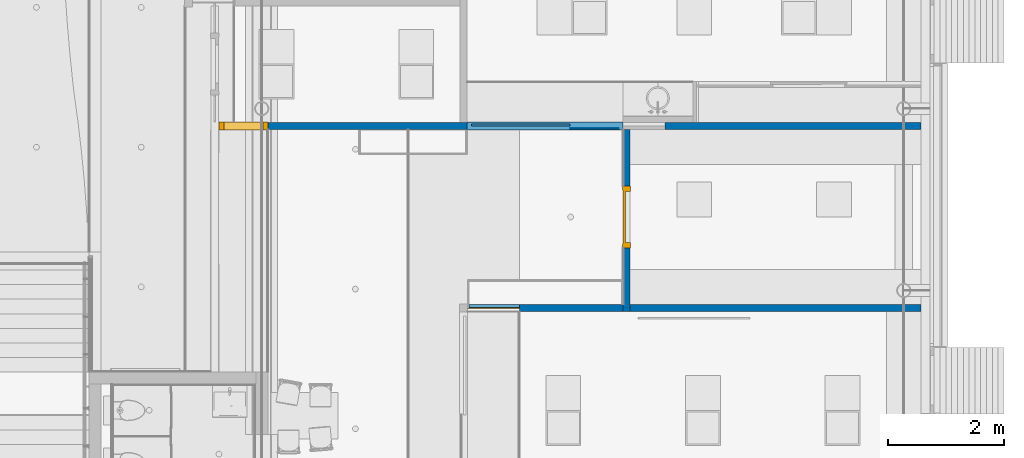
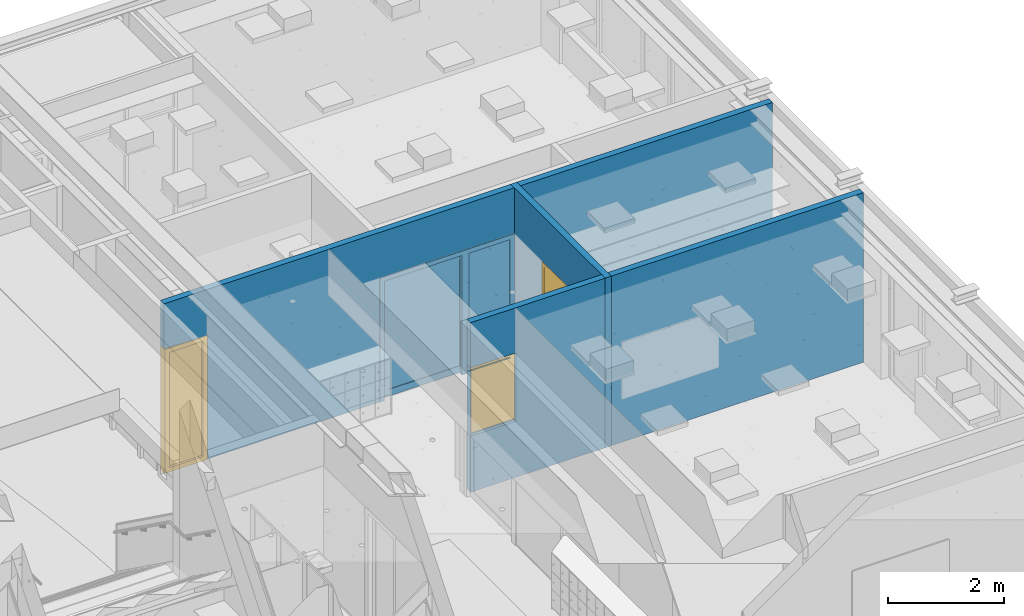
# One storey, part 66 of 347: 4 building element parts, 3 walls, 2 windows, 1 door, 4 openings, 1 element without a shape of its own.
"""IFC2X3 building model written with IfcOpenShell, lengths in millimetres."""

from ifc_helpers import new_model, entity, si_unit, converted_unit, derived_unit, money_unit, direction, frame, origin_with_axes, place, context, subcontext, project, spatial, open_shell, faceted_brep, surface_model, source, transform, mapped, material, type_object, type_shapes, element, fill, aggregate, save


model = new_model("IFC2X3")

# Units and contexts
model_context = context("Model", 3, precision=0.01, world=origin_with_axes(), true_north=direction((0.0, 1.0)))
plan_context = context("Plan", 3, precision=0.01, world=origin_with_axes(), true_north=direction((0.0, 1.0)))
body_context = subcontext(model_context, "Body", "Model", "MODEL_VIEW")
ifc_project = project(units=[si_unit("LENGTHUNIT", "METRE", prefix="MILLI"), si_unit("AREAUNIT", "SQUARE_METRE"), si_unit("VOLUMEUNIT", "CUBIC_METRE"), converted_unit("PLANEANGLEUNIT", "DEGREE", entity("IfcPlaneAngleMeasure", 0.0174532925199), si_unit("PLANEANGLEUNIT", "RADIAN"), dimensions=[0, 0, 0, 0, 0, 0, 0]), money_unit("EUR"), converted_unit("TIMEUNIT", "Year", entity("IfcTimeMeasure", 31556926.0), si_unit("TIMEUNIT", "SECOND"), dimensions=[0, 0, 1, 0, 0, 0, 0]), si_unit("MASSUNIT", "GRAM", prefix="KILO"), si_unit("THERMODYNAMICTEMPERATUREUNIT", "DEGREE_CELSIUS"), si_unit("LUMINOUSINTENSITYUNIT", "LUMEN"), si_unit("ENERGYUNIT", "JOULE", prefix="MEGA"), derived_unit("THERMALCONDUCTANCEUNIT", [(si_unit("POWERUNIT", "WATT"), 1), (si_unit("LENGTHUNIT", "METRE"), -1), (si_unit("THERMODYNAMICTEMPERATUREUNIT", "KELVIN"), -1)]), derived_unit("SPECIFICHEATCAPACITYUNIT", [(si_unit("ENERGYUNIT", "JOULE"), 1), (si_unit("MASSUNIT", "GRAM", prefix="KILO"), -1), (si_unit("THERMODYNAMICTEMPERATUREUNIT", "KELVIN"), -1)]), derived_unit("MASSDENSITYUNIT", [(si_unit("MASSUNIT", "GRAM", prefix="KILO"), 1), (si_unit("VOLUMEUNIT", "CUBIC_METRE"), -1)])], contexts=[model_context, plan_context])

# Site, building, storey
site_placement = place(None, origin_with_axes())
site = spatial("IfcSite", under=ifc_project, at=site_placement, Name="Site", CompositionType="ELEMENT")
building_placement = place(site_placement, origin_with_axes())
building = spatial("IfcBuilding", under=site, at=building_placement, Name="Naam gebouw", CompositionType="ELEMENT")
storey_placement = place(building_placement, origin_with_axes())
storey = spatial("IfcBuildingStorey", under=building, at=storey_placement, Name="begane grond", CompositionType="ELEMENT", Elevation=0.0)

# Wall, opening, window
ifc_material_1 = material(Name="ALG - LICHTE SCHEIDINGSWAND")
wall_type = type_object("IfcWallType", Name="ALG LSW 125 125", PredefinedType="NOTDEFINED")
wall_1_placement = place(storey_placement, frame((55875.0, 35900.0, 0.0), z_axis=(0.0, 0.0, 1.0), x_axis=(-1.0, 0.0, 0.0)))
wall_1 = element("IfcWall", 1, at=wall_1_placement, inside=storey, type_object=wall_type, material=ifc_material_1, Name="22_GF 125 ECO DGS/2.75.2A", context=body_context, shape_type="Brep", body=[
    faceted_brep([(6900.0, -62.5, 1200.0), (6900.0, -10.0, 1200.0), (6900.0, 10.0, 1200.0), (6900.0, 62.5000194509, 1200.0), (6900.0, 62.5, 2600.0), (6900.0, -62.5, 2600.0), (6900.00002007, -62.5, 1178.0), (6900.00002007, -10.0, 1178.0), (7793.0, -10.0, 1200.0), (7793.0, 10.0, 1200.0), (6900.0, 62.5, 0.0), (6900.00001931, 10.0, 1175.0), (6900.0, 61.5, 1175.0), (6900.0, 61.5, 0.0), (6900.0, 62.5, 2612.0), (5125.0, 62.5, 0.0), (5125.0, 62.5, 3560.00000041), (7800.0, 62.5, 3560.00000003), (7800.0, 62.5, 2612.0), (6900.0, -62.5, 2612.0), (5125.0, -62.5, 0.0), (7771.0, -62.5, 0.0), (7771.0, -62.5, 1178.0), (7800.0, -62.5, 2612.0), (7800.0, -62.5, 3560.00000003), (5125.0, -62.5, 3560.00000041), (7771.0, -10.0, 1178.0), (7793.0, -10.0, 1178.0), (7793.0, -62.5, 2600.0), (7793.0, 62.5, 2600.0), (7793.0, 62.5000194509, 1200.0), (7793.0, -62.5, 1200.0), (7793.0, 10.0, 1175.0), (7793.0, 61.5, 1175.0), (7793.0, 61.5, 0.0), (7793.0, -62.5, 0.0), (7793.0, -6.50001416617, 0.0), (7771.0, -6.50001416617, 0.0), (7793.0, 62.5, 0.0), (7800.0, 62.5, 0.0), (7800.0, -62.5, 0.0), (7771.0, -6.50001416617, 1178.0), (7793.0, -6.50001416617, 1178.0), (7800.0, 62.5, 2600.0), (7800.0, -62.5, 2600.0)], [[[0, 1, 2, 3, 4, 5]], [[1, 0, 6, 7]], [[2, 1, 8, 9]], [[10, 3, 2, 11, 12, 13]], [[14, 4, 3, 10, 15, 16, 17, 18]], [[5, 4, 14, 19]], [[20, 21, 22, 6, 0, 5, 19, 23, 24, 25]], [[22, 26, 7, 6]], [[27, 8, 1, 7, 26]], [[28, 29, 30, 9, 8, 31]], [[11, 2, 9, 32]], [[33, 12, 11, 32]], [[12, 33, 34, 13]], [[35, 36, 37, 21, 20, 15, 10, 13, 34, 38, 39, 40]], [[15, 20, 25, 16]], [[16, 25, 24, 17]], [[23, 18, 17, 24]], [[23, 19, 14, 18]], [[21, 37, 41, 26, 22]], [[27, 42, 36, 35, 31, 8]], [[27, 26, 41, 42]], [[43, 29, 28, 44]], [[38, 30, 29, 43, 39]], [[32, 9, 30, 38, 34, 33]], [[31, 35, 40, 44, 28]], [[37, 36, 42, 41]], [[43, 44, 40, 39]]]),
    faceted_brep([(-5.18744869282e-05, -62.5, 3560.0), (-5.18174800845e-05, 62.5, 3560.0), (-5.65420918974e-05, 62.5, 0.0), (-5.65420918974e-05, -62.5, 0.0), (5000.0, 62.5, 3560.00000043), (5000.0, -62.5, 3560.00000043), (5000.0, 62.5, 0.0), (5000.0, -62.5, 0.0)], [[[0, 1, 2, 3]], [[4, 1, 0, 5]], [[2, 1, 4, 6]], [[7, 3, 2, 6]], [[0, 3, 7, 5]], [[4, 5, 7, 6]]]),
])
opening_1_placement = place(wall_1_placement, frame((7346.5, 0.0, 1200.0), z_axis=(0.0, 0.0, 1.0), x_axis=(1.0, 0.0, 0.0)))
opening_1 = element("IfcOpeningElement", 2, at=opening_1_placement, cuts=wall_1, Name="31_11.02", context=body_context, shape_type="Brep", body=[
    faceted_brep([(-446.5, 187.5, 1400.0), (-446.5, 187.5, 0.0), (-446.5, -10.0, 0.0), (-446.5, -10.0, 1400.0), (446.5, 187.5, 1400.0), (446.5, 187.5, 0.0), (446.5, -10.0, 0.0), (446.5, -10.0, 1400.0)], [[[0, 1, 2, 3]], [[0, 4, 5, 1]], [[1, 5, 6, 2]], [[3, 2, 6, 7]], [[4, 0, 3, 7]], [[5, 4, 7, 6]]]),
    faceted_brep([(-446.5, -187.5, 0.0), (-446.5, -187.5, 1400.0), (-446.5, -10.0, 1400.0), (-446.5, -10.0, 0.0), (446.5, -187.5, 0.0), (446.5, -187.5, 1400.0), (446.5, -10.0, 1400.0), (446.5, -10.0, 0.0)], [[[0, 1, 2, 3]], [[0, 4, 5, 1]], [[1, 5, 6, 2]], [[3, 2, 6, 7]], [[4, 0, 3, 7]], [[5, 4, 7, 6]]]),
])
window_style_1 = type_object("IfcWindowStyle", Name="R1 25", ConstructionType="NOTDEFINED", OperationType="SINGLE_PANEL", ParameterTakesPrecedence=False, Sizeable=False)
shared_shape_1 = source(origin_with_axes(), body_context, "Body", "SurfaceModel", [
    faceted_brep([(-426.5, -20.0, 1380.0), (-426.5, 0.0, 1380.0), (-446.5, 0.0, 1380.0), (-446.5, -20.0, 1380.0), (-426.5, -20.0, 20.0), (-426.5, 0.0, 20.0), (-446.5, 0.0, 20.0), (-446.5, -20.0, 20.0)], [[[0, 1, 2, 3]], [[4, 5, 1, 0]], [[1, 5, 6, 2]], [[3, 2, 6, 7]], [[0, 3, 7, 4]], [[7, 6, 5, 4]]]),
    faceted_brep([(426.5, -20.0, 20.0), (426.5, 0.0, 20.0), (446.5, 0.0, 20.0), (446.5, -20.0, 20.0), (426.5, -20.0, 1380.0), (426.5, 0.0, 1380.0), (446.5, 0.0, 1380.0), (446.5, -20.0, 1380.0)], [[[0, 1, 2, 3]], [[4, 5, 1, 0]], [[1, 5, 6, 2]], [[3, 2, 6, 7]], [[0, 3, 7, 4]], [[7, 6, 5, 4]]]),
    faceted_brep([(-426.5, -20.0, 20.0), (-426.5, 0.0, 20.0), (-446.5, 0.0, 20.0), (-446.5, -20.0, 20.0), (426.5, -20.0, 20.0), (426.5, 0.0, 20.0), (446.5, 0.0, 20.0), (446.5, 0.0, 0.0), (-446.5, 0.0, 0.0), (-446.5, -20.0, 0.0), (446.5, -20.0, 0.0), (446.5, -20.0, 20.0)], [[[0, 1, 2, 3]], [[4, 5, 1, 0]], [[1, 5, 6, 7, 8, 2]], [[3, 2, 8, 9]], [[0, 3, 9, 10, 11, 4]], [[11, 6, 5, 4]], [[10, 7, 6, 11]], [[9, 8, 7, 10]]]),
    faceted_brep([(426.5, -20.0, 1380.0), (426.5, 0.0, 1380.0), (446.5, 0.0, 1380.0), (446.5, -20.0, 1380.0), (-426.5, -20.0, 1380.0), (-426.5, 0.0, 1380.0), (-446.5, 0.0, 1380.0), (-446.5, 0.0, 1400.0), (446.5, 0.0, 1400.0), (446.5, -20.0, 1400.0), (-446.5, -20.0, 1400.0), (-446.5, -20.0, 1380.0)], [[[0, 1, 2, 3]], [[4, 5, 1, 0]], [[1, 5, 6, 7, 8, 2]], [[3, 2, 8, 9]], [[0, 3, 9, 10, 11, 4]], [[11, 6, 5, 4]], [[10, 7, 6, 11]], [[9, 8, 7, 10]]]),
    surface_model("IfcShellBasedSurfaceModel", [(-426.5, -20.0, 20.0), (426.5, -20.0, 20.0), (426.5, -20.0, 1380.0), (-426.5, -20.0, 1380.0)], [open_shell([[[0, 1, 2, 3]]])]),
    surface_model("IfcShellBasedSurfaceModel", [(-426.5, 0.0, 20.0), (-426.5, 0.0, 1380.0), (426.5, 0.0, 1380.0), (426.5, 0.0, 20.0)], [open_shell([[[0, 1, 2, 3]]])]),
])
type_shapes(window_style_1, [shared_shape_1])
window_1_placement = place(opening_1_placement, frame((446.5, 0.0, 0.0), z_axis=(0.0, 0.0, 1.0), x_axis=(-1.0, 0.0, 0.0)))
window_1 = element("IfcWindow", 3, at=window_1_placement, inside=storey, type_object=window_style_1, Name="31_11.02", ObjectType="WINDOW", OverallHeight=1400.0, OverallWidth=893.0, context=body_context, shape_type="MappedRepresentation", body=[
    mapped(shared_shape_1, transform((446.5, 10.0, 0.0))),
])
fill(opening_1, window_1)

# Wall, openings, window
wall_2_placement = place(storey_placement, frame((55875.0, 38962.5, 0.0), z_axis=(0.0, 0.0, 1.0), x_axis=(-1.0, 0.0, 0.0)))
wall_2 = element("IfcWall", 4, at=wall_2_placement, inside=storey, type_object=wall_type, material=ifc_material_1, Name="22_GF 125 ECO DGS/2.75.2A", context=body_context, shape_type="Brep", body=[
    faceted_brep([(5125.0, 0.0, 2600.00000192), (5125.0, -125.0, 2600.00000192), (5125.0, -125.0, 3560.00000067), (5125.0, 0.0, 3560.00000067), (7800.0, -125.0, 2600.00000192), (7800.0, -3.39530146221e-05, 2600.00000192), (7800.0, -125.0, 0.0), (11220.0, -125.0, 0.0), (11220.0, -125.0, 2600.0), (11799.9999669, -125.0, 2600.0), (11799.9999669, -125.0, 2612.0), (12075.0, -125.0, 2612.0), (12075.0, -125.0, 3560.00000002), (12075.0, 0.0, 3560.00000002), (12075.0, 0.0, 2612.0), (11799.9999669, -3.39530146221e-05, 2612.0), (11799.9999669, -3.39530146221e-05, 2600.0), (11220.0, -3.39530146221e-05, 2600.0), (11220.0, 0.0, 0.0), (7800.0, 0.0, 0.0)], [[[0, 1, 2, 3]], [[4, 1, 0, 5]], [[4, 6, 7, 8, 9, 10, 11, 12, 2, 1]], [[3, 2, 12, 13]], [[5, 0, 3, 13, 14, 15, 16, 17, 18, 19]], [[6, 4, 5, 19]], [[6, 19, 18, 7]], [[7, 18, 17, 8]], [[8, 17, 16, 9]], [[16, 15, 10, 9]], [[11, 10, 15, 14]], [[11, 14, 13, 12]]]),
    faceted_brep([(4400.0, -125.0, 2600.00000192), (5000.0, -125.0, 2600.00000192), (5000.0, -125.0, 3560.00000068), (-5.32996935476e-05, -125.0, 3560.0), (-5.65420918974e-05, -125.0, 0.0), (4400.0, -125.0, 0.0), (4400.0, 0.0, 2600.00000192), (5000.0, 0.0, 2600.00000192), (5000.0, 0.0, 3560.00000068), (-5.32426867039e-05, 0.0, 3560.0), (-5.65420918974e-05, 0.0, 0.0), (4400.0, 0.0, 0.0)], [[[0, 1, 2, 3, 4, 5]], [[1, 0, 6, 7]], [[1, 7, 8, 2]], [[9, 3, 2, 8]], [[9, 10, 4, 3]], [[11, 5, 4, 10]], [[0, 5, 11, 6]], [[6, 11, 10, 9, 8, 7]]]),
])
opening_2_placement = place(wall_2_placement, frame((11644.0, 0.0, 0.0), z_axis=(0.0, 0.0, 1.0), x_axis=(1.0, 0.0, 0.0)))
opening_2 = element("IfcOpeningElement", 5, at=opening_2_placement, cuts=wall_2, Name="31_07.01", context=body_context, shape_type="Brep", body=[
    faceted_brep([(424.0, -125.0, 2600.0), (424.0, -125.0, 0.0), (424.0, 257.0, 0.0), (424.0, 257.0, 2600.0), (-424.0, -125.0, 2600.0), (-424.0, -125.0, 0.0), (-424.0, 257.0, 0.0), (-424.0, 257.0, 2600.0)], [[[0, 1, 2, 3]], [[0, 4, 5, 1]], [[1, 5, 6, 2]], [[3, 2, 6, 7]], [[4, 0, 3, 7]], [[5, 4, 7, 6]]]),
])
opening_3_placement = place(wall_2_placement, frame((6100.0, 0.0, 0.0), z_axis=(0.0, 0.0, 1.0), x_axis=(1.0, 0.0, 0.0)))
opening_3 = element("IfcOpeningElement", 6, at=opening_3_placement, cuts=wall_2, Name="31_06.04", context=body_context, shape_type="Brep", body=[
    faceted_brep([(1700.0, -132.0, 2600.00000192), (1700.0, -132.0, 0.0), (1700.0, 132.0, 0.0), (1700.0, 132.0, 2600.00000192), (-1700.0, -132.0, 2600.00000192), (-1700.0, -132.0, 0.0), (-1700.0, 132.0, 0.0), (-1700.0, 132.0, 2600.00000192)], [[[0, 1, 2, 3]], [[0, 4, 5, 1]], [[1, 5, 6, 2]], [[3, 2, 6, 7]], [[4, 0, 3, 7]], [[5, 4, 7, 6]]]),
])
window_style_2 = type_object("IfcWindowStyle", Name="Rmeerkeuze 25", ConstructionType="NOTDEFINED", OperationType="SINGLE_PANEL", ParameterTakesPrecedence=False, Sizeable=False)
window_2_placement = place(opening_2_placement, frame((-424.0, 0.0, 0.0), z_axis=(0.0, 0.0, 1.0), x_axis=(1.0, 0.0, 0.0)))
window_2 = element("IfcWindow", 7, at=window_2_placement, inside=storey, type_object=window_style_2, Name="31_07.01", ObjectType="WINDOW", OverallHeight=2600.0, OverallWidth=848.0, context=body_context, shape_type="SurfaceModel", body=[
    faceted_brep([(90.0, -132.0, 2510.0), (90.0, 7.0, 2510.0), (0.0, 7.0, 2510.0), (0.0, -132.0, 2510.0), (90.0, -132.0, 90.0), (90.0, 7.0, 90.0), (0.0, 7.0, 90.0), (0.0, -132.0, 90.0)], [[[0, 1, 2, 3]], [[4, 5, 1, 0]], [[1, 5, 6, 2]], [[3, 2, 6, 7]], [[0, 3, 7, 4]], [[7, 6, 5, 4]]]),
    faceted_brep([(758.0, -132.0, 90.0), (758.0, 7.0, 90.0), (848.0, 7.0, 90.0), (848.0, -132.0, 90.0), (758.0, -132.0, 2510.0), (758.0, 7.0, 2510.0), (848.0, 7.0, 2510.0), (848.0, -132.0, 2510.0)], [[[0, 1, 2, 3]], [[4, 5, 1, 0]], [[1, 5, 6, 2]], [[3, 2, 6, 7]], [[0, 3, 7, 4]], [[7, 6, 5, 4]]]),
    faceted_brep([(90.0, -132.0, 90.0), (90.0, 7.0, 90.0), (0.0, 7.0, 90.0), (0.0, -132.0, 90.0), (758.0, -132.0, 90.0), (758.0, 7.0, 90.0), (848.0, 7.0, 90.0), (848.0, 7.0, 0.0), (0.0, 7.0, 0.0), (0.0, -132.0, 0.0), (848.0, -132.0, 0.0), (848.0, -132.0, 90.0)], [[[0, 1, 2, 3]], [[4, 5, 1, 0]], [[1, 5, 6, 7, 8, 2]], [[3, 2, 8, 9]], [[0, 3, 9, 10, 11, 4]], [[11, 6, 5, 4]], [[10, 7, 6, 11]], [[9, 8, 7, 10]]]),
    faceted_brep([(758.0, -132.0, 2510.0), (758.0, 7.0, 2510.0), (848.0, 7.0, 2510.0), (848.0, -132.0, 2510.0), (90.0, -132.0, 2510.0), (90.0, 7.0, 2510.0), (0.0, 7.0, 2510.0), (0.0, 7.0, 2600.0), (848.0, 7.0, 2600.0), (848.0, -132.0, 2600.0), (0.0, -132.0, 2600.0), (0.0, -132.0, 2510.0)], [[[0, 1, 2, 3]], [[4, 5, 1, 0]], [[1, 5, 6, 7, 8, 2]], [[3, 2, 8, 9]], [[0, 3, 9, 10, 11, 4]], [[11, 6, 5, 4]], [[10, 7, 6, 11]], [[9, 8, 7, 10]]]),
    surface_model("IfcShellBasedSurfaceModel", [(90.0, -57.0, 90.0), (758.0, -57.0, 90.0), (758.0, -57.0, 2510.0), (90.0, -57.0, 2510.0)], [open_shell([[[0, 1, 2, 3]]])]),
    surface_model("IfcShellBasedSurfaceModel", [(90.0, -37.0, 90.0), (90.0, -37.0, 2510.0), (758.0, -37.0, 2510.0), (758.0, -37.0, 90.0)], [open_shell([[[0, 1, 2, 3]]])]),
])
fill(opening_2, window_2)

# Wall, opening, door
wall_3_placement = place(storey_placement, frame((50750.0, 38962.5, 0.0), z_axis=(0.0, 0.0, 1.0), x_axis=(0.0, -1.0, 0.0)))
wall_3 = element("IfcWall", 8, at=wall_3_placement, inside=storey, type_object=wall_type, material=ifc_material_1, Name="22_GF 125 ECO DGS/2.75.2A", context=body_context, shape_type="Brep", body=[
    faceted_brep([(0.0, 125.0, 0.0), (0.0, 125.0, 2600.00000192), (-125.0, 125.0, 2600.00000192), (-125.0, 125.0, 3560.0), (3125.0, 125.0, 3560.0), (3125.0, 125.0, 0.0), (2031.99998207, 125.0, 0.0), (2031.99998207, 125.0, 2600.0), (967.999982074, 125.0, 2600.0), (967.999982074, 125.0, 0.0), (0.0, 12.5, 0.0), (0.0, 12.5, 2600.00000192), (-125.0, 0.0, 2600.00000192), (0.0, 0.0, 2600.00000192), (-125.0, 0.0, 3560.0), (3125.0, 0.0, 3560.0), (3125.0, 0.0, 0.0), (3000.0, 12.5, 0.0), (2031.99998207, 12.5, 0.0), (3000.0, 0.0, 0.0), (2031.99998207, 12.5, 2600.0), (967.999982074, 12.5, 2600.0), (2031.99998207, 0.0, 2600.0), (967.999982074, 0.0, 2600.0), (967.999982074, 12.5, 0.0), (3000.0, 0.0, 2600.0), (3000.0, 12.5, 2600.0)], [[[0, 1, 2, 3, 4, 5, 6, 7, 8, 9]], [[1, 0, 10, 11]], [[12, 2, 1, 11, 13]], [[2, 12, 14, 3]], [[14, 15, 4, 3]], [[5, 4, 15, 16]], [[17, 18, 6, 5, 16, 19]], [[20, 7, 6, 18]], [[21, 8, 7, 20, 22, 23]], [[24, 9, 8, 21]], [[10, 0, 9, 24]], [[11, 10, 24, 21]], [[13, 11, 21, 23]], [[12, 13, 23, 22, 25, 19, 16, 15, 14]], [[26, 20, 18, 17]], [[26, 17, 19, 25]], [[25, 22, 20, 26]]]),
])
opening_4_placement = place(wall_3_placement, frame((1499.99998207, 0.0, 0.0), z_axis=(0.0, 0.0, 1.0), x_axis=(1.0, 0.0, 0.0)))
opening_4 = element("IfcOpeningElement", 9, at=opening_4_placement, cuts=wall_3, Name="32_02.03", context=body_context, shape_type="Brep", body=[
    faceted_brep([(-532.0, 125.0, 2600.0), (-532.0, 125.0, 0.0), (-532.0, -257.0, 0.0), (-532.0, -257.0, 2600.0), (532.0, 125.0, 2600.0), (532.0, 125.0, 0.0), (532.0, -257.0, 0.0), (532.0, -257.0, 2600.0)], [[[0, 1, 2, 3]], [[0, 4, 5, 1]], [[1, 5, 6, 2]], [[3, 2, 6, 7]], [[4, 0, 3, 7]], [[5, 4, 7, 6]]]),
])
door_style_1 = type_object("IfcDoorStyle", Name="D1 25", ConstructionType="NOTDEFINED", OperationType="SINGLE_SWING_RIGHT", ParameterTakesPrecedence=False, Sizeable=False)
shared_shape_2 = source(origin_with_axes(), body_context, "Body", "Brep", [
    faceted_brep([(-442.0, -50.0, 0.0), (-442.0, -50.0, 2510.0), (-442.0, -139.0, 2510.0), (-442.0, -139.0, 0.0), (-467.0, -50.0, 2510.0), (-467.0, -50.0, 0.0), (-467.0, 0.0, 2510.0), (-532.0, 0.0, 2510.0), (-532.0, -139.0, 2510.0), (-532.0, -139.0, 0.0), (-532.0, 0.0, 0.0), (-467.0, 0.0, 0.0)], [[[0, 1, 2, 3]], [[4, 1, 0, 5]], [[4, 6, 7, 8, 2, 1]], [[3, 2, 8, 9]], [[5, 0, 3, 9, 10, 11]], [[6, 4, 5, 11]], [[6, 11, 10, 7]], [[10, 9, 8, 7]]]),
    faceted_brep([(467.0, -50.0, 2510.0), (442.0, -50.0, 2510.0), (442.0, -139.0, 2510.0), (532.0, -139.0, 2510.0), (532.0, 0.0, 2510.0), (467.0, 0.0, 2510.0), (467.0, -50.0, 0.0), (442.0, -50.0, 0.0), (442.0, -139.0, 0.0), (532.0, -139.0, 0.0), (532.0, 0.0, 0.0), (467.0, 0.0, 0.0)], [[[0, 1, 2, 3, 4, 5]], [[1, 0, 6, 7]], [[1, 7, 8, 2]], [[3, 2, 8, 9]], [[4, 3, 9, 10]], [[11, 5, 4, 10]], [[0, 5, 11, 6]], [[6, 11, 10, 9, 8, 7]]]),
    faceted_brep([(-467.0, 0.0, 2535.0), (-467.0, 0.0, 2510.0), (-532.0, 0.0, 2510.0), (-532.0, 0.0, 2600.0), (532.0, 0.0, 2600.0), (532.0, 0.0, 2510.0), (467.0, 0.0, 2510.0), (467.0, 0.0, 2535.0), (-467.0, -50.0, 2535.0), (-467.0, -50.0, 2510.0), (-442.0, -50.0, 2510.0), (-442.0, -139.0, 2510.0), (-532.0, -139.0, 2510.0), (-532.0, -139.0, 2600.0), (532.0, -139.0, 2600.0), (532.0, -139.0, 2510.0), (467.0, -50.0, 2510.0), (442.0, -139.0, 2510.0), (442.0, -50.0, 2510.0), (467.0, -50.0, 2535.0)], [[[0, 1, 2, 3, 4, 5, 6, 7]], [[1, 0, 8, 9]], [[9, 10, 11, 12, 2, 1]], [[2, 12, 13, 3]], [[3, 13, 14, 4]], [[4, 14, 15, 5]], [[16, 6, 5, 15, 17, 18]], [[7, 6, 16, 19]], [[0, 7, 19, 8]], [[16, 18, 10, 9, 8, 19]], [[10, 18, 17, 11]], [[17, 15, 14, 13, 12, 11]]]),
    faceted_brep([(467.0, -10.0, 0.0), (467.0, -50.0, 0.0), (-467.0, -50.0, 0.0), (-467.0, -10.0, 0.0), (467.0, -10.0, 2535.0), (467.0, -50.0, 2535.0), (-467.0, -50.0, 2535.0), (-467.0, -10.0, 2535.0)], [[[0, 1, 2, 3]], [[4, 5, 1, 0]], [[1, 5, 6, 2]], [[3, 2, 6, 7]], [[0, 3, 7, 4]], [[7, 6, 5, 4]]]),
])
type_shapes(door_style_1, [shared_shape_2])
door_1_placement = place(opening_4_placement, frame((532.0, 0.0, 0.0), z_axis=(0.0, 0.0, 1.0), x_axis=(-1.0, 0.0, 0.0)))
door_1 = element("IfcDoor", 10, at=door_1_placement, inside=storey, type_object=door_style_1, Name="32_02.03", ObjectType="DOOR", OverallHeight=2600.0, OverallWidth=1064.0, context=body_context, shape_type="MappedRepresentation", body=[
    mapped(shared_shape_2, transform((532.0, 7.0, 0.0))),
])
fill(opening_4, door_1)

# Door
door_style_2 = type_object("IfcDoorStyle", Name="32 schuifdeurkozijn 2675 KRAR", ConstructionType="NOTDEFINED", OperationType="NOTDEFINED", ParameterTakesPrecedence=False, Sizeable=False)
door_2_placement = place(opening_3_placement, frame((1700.0, 0.0, 0.0), z_axis=(0.0, 0.0, 1.0), x_axis=(-1.0, 0.0, 0.0)))
door_2 = element("IfcDoor", 11, at=door_2_placement, inside=storey, type_object=door_style_2, Name="31_06.04", ObjectType="DOOR", OverallHeight=2600.0, OverallWidth=3400.0)

fill(opening_3, door_2)

# Building element part
ifc_material_2 = material(Name="Glas")
shared_shape_3 = source(origin_with_axes(), body_context, "Body", "Brep", [
    faceted_brep([(69.5, -116.000001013, 25.0000000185), (902.00000001, -116.000000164, 25.0000000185), (902.00000001, -115.999999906, 2510.00003068), (69.5, -116.000001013, 2510.00002918), (69.5, -103.000000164, 25.0000000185), (902.00000001, -103.000000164, 25.0000000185), (902.00000001, -103.000000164, 2510.00003202), (69.5, -103.000000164, 2510.00002681)], [[[0, 1, 2, 3]], [[4, 5, 1, 0]], [[2, 1, 5, 6]], [[3, 2, 6, 7]], [[7, 4, 0, 3]], [[7, 6, 5, 4]]]),
])
building_element_part_1_placement = place(door_2_placement, origin_with_axes())
building_element_part_1 = element("IfcBuildingElementPart", 12, at=building_element_part_1_placement, material=ifc_material_2, Name="Glas", context=body_context, shape_type="MappedRepresentation", body=[
    mapped(shared_shape_3, transform((1700.0, 132.0, 0.0))),
])

ifc_material_3 = material(Name="Metaal - Aluminium")
shared_shape_4 = source(origin_with_axes(), body_context, "Body", "Brep", [
    faceted_brep([(902.00000001, -97.0000001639, 0.0), (902.00000001, -122.000000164, 0.0), (69.5, -122.000000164, 0.0), (69.5, -97.0000001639, 0.0), (902.00000001, -97.0000001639, 25.0000000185), (902.00000001, -122.000000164, 25.0000000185), (69.5, -122.000000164, 25.0000000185), (69.5, -97.0000001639, 25.0000000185)], [[[0, 1, 2, 3]], [[4, 5, 1, 0]], [[1, 5, 6, 2]], [[3, 2, 6, 7]], [[0, 3, 7, 4]], [[7, 6, 5, 4]]]),
])
building_element_part_2_placement = place(door_2_placement, origin_with_axes())
building_element_part_2 = element("IfcBuildingElementPart", 13, at=building_element_part_2_placement, material=ifc_material_3, Name="Metaal - Aluminium", context=body_context, shape_type="MappedRepresentation", body=[
    mapped(shared_shape_4, transform((1700.0, 132.0, 0.0))),
])

ifc_material_4 = material(Name="32 Hout binnenkozijn oregon pine")
shared_shape_5 = source(origin_with_axes(), body_context, "Body", "Brep", [
    faceted_brep([(974.99999792, -71.9999996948, 0.000850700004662), (974.99999792, -138.999999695, 0.000850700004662), (885.00000001, -138.999999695, 0.000850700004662), (885.00000001, -71.9999996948, 0.000850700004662), (974.99999792, -71.9999996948, 2510.00003655), (974.99999792, -138.999999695, 2510.00003655), (885.00000001, -138.999999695, 2510.00003655), (885.00000001, -71.9999996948, 2510.00003655)], [[[0, 1, 2, 3]], [[4, 5, 1, 0]], [[1, 5, 6, 2]], [[3, 2, 6, 7]], [[0, 3, 7, 4]], [[7, 6, 5, 4]]]),
    faceted_brep([(52.5000001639, -96.9999998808, 2510.00002571), (52.5000001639, -121.999999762, 2510.00003028), (52.5000001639, -121.999999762, 2527.00003181), (52.5000001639, -96.9999998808, 2527.00002573), (975.0, -97.0000221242, 2510.00002571), (975.0, -122.000022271, 2510.00003028), (169.5, -122.000002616, 2510.00003028), (169.5, -122.000002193, 2527.00003181), (169.5, -97.0000021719, 2527.00002573), (52.5000001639, -72.0, 2527.00001958), (52.5000001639, -72.0, 2510.00001957), (975.0, -72.0000221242, 2510.00001957), (975.0, -27.0000228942, 2510.00000858), (975.0, -2.21242113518e-05, 2510.00000187), (975.0, 0.0, 2600.00000192), (975.0, -139.000001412, 2600.00003801), (975.0, -139.000022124, 2510.00003606), (169.5, -139.0, 2510.00000172), (169.5, -139.0, 2600.00000384), (169.5, -72.0000010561, 2600.0000026), (169.5, -72.0000073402, 2569.00001862), (169.5, -72.000002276, 2527.00001958), (-4.90274487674e-10, -72.0000071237, 2569.00001862), (-4.90274487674e-10, -72.0000212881, 2510.00001919), (-4.90274487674e-10, -27.0000204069, 2510.00000623), (-4.90274487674e-10, -2.16067057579e-05, 2510.00000191), (-4.90274487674e-10, 0.0, 2600.00000374), (-4.90274487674e-10, -72.0000010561, 2600.0000026)], [[[0, 1, 2, 3]], [[4, 5, 6, 1, 0]], [[2, 1, 6, 7]], [[3, 2, 7, 8]], [[3, 9, 10, 0]], [[4, 11, 12, 13, 14, 15, 16, 5]], [[16, 17, 6, 5]], [[0, 10, 11, 4]], [[8, 7, 6, 17, 18, 19, 20, 21]], [[8, 21, 9, 3]], [[9, 21, 20, 22, 23, 10]], [[10, 23, 24, 12, 11]], [[13, 12, 24, 25]], [[26, 14, 13, 25]], [[27, 19, 18, 15, 14, 26]], [[17, 16, 15, 18]], [[27, 22, 20, 19]], [[26, 25, 24, 23, 22, 27]]]),
    faceted_brep([(-1634.9999999, -72.0000001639, 2510.00000187), (-1699.99999792, -72.0000004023, 2510.00000172), (-1699.99999792, -72.0000003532, 2569.00000131), (-1634.9999999, -72.0000001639, 2569.00000054), (-69.5000004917, -71.9999995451, 2509.99999993), (-69.5000004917, -121.999999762, 2510.00003028), (169.5, -121.999999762, 2510.00003028), (169.5, -139.0, 2510.00000172), (-1699.99999792, -138.999999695, 2510.00000172), (-1699.99999792, -138.999999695, 2600.00000384), (-1699.99999792, -27.0, 2600.00000193), (-1699.99999792, -27.0000000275, 2569.00000339), (-1634.9999999, -26.9999993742, 2569.00000388), (-1634.9999999, -26.9999993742, 2510.00000187), (-69.5000004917, -72.0000001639, 2527.0000179), (-69.5000004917, -122.000020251, 2527.00003235), (169.5, -122.000020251, 2527.00003235), (169.5, -72.0, 2527.0000179), (169.5, -71.9999995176, 2569.00000131), (169.5, -71.9999995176, 2600.00000471), (169.5, -139.0, 2600.00000384), (0.0, -27.0000014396, 2509.99999985), (0.0, -71.9999995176, 2509.99999985), (0.0, 0.0, 2600.00000039), (-1699.99999792, 0.0, 2600.00000184), (0.0, -71.9999995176, 2600.00000471), (-1699.99999792, 0.0, 2510.00000176), (-1699.99999792, -27.00000008, 2510.00000176), (0.0, -71.9999995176, 2527.0000179), (0.0, -71.9999995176, 2569.00000054), (0.0, 0.0, 2509.99999985), (0.0, -26.9999993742, 2569.00000388)], [[[0, 1, 2, 3]], [[4, 5, 6, 7, 8, 1, 0]], [[2, 1, 8, 9, 10, 11]], [[3, 2, 11, 12]], [[12, 13, 0, 3]], [[14, 15, 5, 4]], [[15, 16, 6, 5]], [[17, 18, 19, 20, 7, 6, 16]], [[9, 8, 7, 20]], [[0, 13, 21, 22, 4]], [[23, 24, 10, 9, 20, 19, 25]], [[24, 26, 27, 11, 10]], [[12, 11, 27, 13]], [[28, 17, 16, 15, 14]], [[4, 22, 28, 14]], [[29, 25, 19, 18, 17, 28]], [[13, 27, 26, 30, 21]], [[28, 22, 21, 31, 29]], [[30, 26, 24, 23]], [[31, 21, 30, 23, 25, 29]]]),
    faceted_brep([(-1634.9999999, -72.0000004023, 2569.00000131), (-1634.9999999, -26.9999993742, 2569.00000274), (-1699.99999792, -26.9999993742, 2569.00000274), (-1699.99999792, -72.0000004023, 2569.00000131), (-1634.9999999, -72.0000004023, 2510.00000172), (-1634.9999999, -72.0000001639, 2.02504679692e-10), (-1634.9999999, 0.0, 2.02504679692e-10), (-1634.9999999, 0.0, 2510.00000168), (-1634.9999999, -27.000000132, 2510.00000168), (-1699.99999792, -27.00000008, 2510.00000176), (-1699.99999792, -72.0000004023, 2510.00000172), (-1699.99999792, 0.0, 2510.00000176), (-1700.0, 0.0, 2.02504679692e-10), (-1700.0, -139.0, 2.02504679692e-10), (-1699.99999792, -138.999999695, 2510.00000172), (-1610.00000001, -72.0000004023, 2510.00000172), (-1610.00000001, -72.0000001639, 2.02504679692e-10), (-1610.00000001, -139.0, 2.02504679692e-10), (-1610.00000001, -138.999999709, 2510.00000172)], [[[0, 1, 2, 3]], [[4, 5, 6, 7, 8, 1, 0]], [[1, 8, 9, 2]], [[10, 3, 2, 9, 11, 12, 13, 14]], [[10, 4, 0, 3]], [[15, 16, 5, 4]], [[16, 17, 13, 12, 6, 5]], [[7, 6, 12, 11]], [[9, 8, 7, 11]], [[14, 13, 17, 18]], [[18, 15, 4, 10, 14]], [[18, 17, 16, 15]]]),
    faceted_brep([(52.5000001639, -72.0, 2510.00001957), (52.5000001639, -72.0000021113, 2527.0000179), (52.5000001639, -122.000018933, 2527.00003184), (52.5000001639, -121.999999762, 2510.00003028), (52.5000001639, -96.9999998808, 2510.00002571), (69.5, -72.0000004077, 2510.00001957), (69.5, -72.0, -1.98951966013e-10), (-69.5, -72.0, -1.98951966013e-10), (-69.5000009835, -72.0, 2527.0000179), (-69.5000009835, -122.000018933, 2527.00003184), (-69.5000009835, -122.000021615, 2510.00002985), (69.5, -122.000000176, 2510.00003028), (69.5, -97.0000002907, 2510.00002571), (69.5, -97.0000001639, -1.98951966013e-10), (52.5, -97.0000001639, -1.98951966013e-10), (52.5000001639, -121.999999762, -1.98951966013e-10), (69.5, -121.999999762, -1.98951966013e-10), (69.5, -138.999999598, -1.98951966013e-10), (-69.5, -138.999999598, -1.98951966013e-10), (-69.5000009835, -138.99999924, 2510.00003655), (69.5, -139.000002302, 2510.00003655)], [[[0, 1, 2, 3, 4]], [[0, 5, 6, 7, 8, 1]], [[8, 9, 2, 1]], [[2, 9, 10, 3]], [[4, 3, 11, 12]], [[12, 5, 0, 4]], [[13, 6, 5, 12]], [[6, 13, 14, 15, 16, 17, 18, 7]], [[8, 7, 18, 19, 10, 9]], [[10, 19, 20, 11, 3]], [[12, 11, 16, 13]], [[13, 16, 15, 14]], [[20, 17, 16, 11]], [[17, 20, 19, 18]]]),
])
building_element_part_3_placement = place(door_2_placement, origin_with_axes())
building_element_part_3 = element("IfcBuildingElementPart", 14, at=building_element_part_3_placement, material=ifc_material_4, Name="32 Hout binnenkozijn oregon pine", context=body_context, shape_type="MappedRepresentation", body=[
    mapped(shared_shape_5, transform((1700.0, 132.0, 0.0))),
])

shared_shape_6 = source(origin_with_axes(), body_context, "Body", "SurfaceModel", [
    faceted_brep([(-1627.0, -30.0000001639, 150.000034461), (-1488.0, -30.0000001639, 150.000034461), (-1488.0, -70.0000001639, 150.000034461), (-1627.0, -70.0000001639, 150.000034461), (-1627.0, -30.0000001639, 2371.00003597), (-1488.0, -30.0000001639, 2371.00003597), (-1488.0, -70.0000001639, 2371.00003597), (-1627.0, -70.0000001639, 2371.00003597)], [[[0, 1, 2, 3]], [[0, 4, 5, 1]], [[1, 5, 6, 2]], [[3, 2, 6, 7]], [[4, 0, 3, 7]], [[5, 4, 7, 6]]]),
    faceted_brep([(69.5, -30.0000001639, 150.000034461), (69.5, -30.0000001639, 2371.00003597), (69.5, -70.0000001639, 2371.00003597), (69.5, -70.0000001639, 150.000034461), (-69.5, -30.0000001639, 150.000034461), (-69.5, -30.0000001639, 2371.00003597), (-69.5, -70.0000001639, 2371.00003597), (-69.5, -70.0000001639, 150.000034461)], [[[0, 1, 2, 3]], [[0, 4, 5, 1]], [[1, 5, 6, 2]], [[3, 2, 6, 7]], [[4, 0, 3, 7]], [[5, 4, 7, 6]]]),
    faceted_brep([(-1627.0, -30.0000001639, 11.0000343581), (69.5, -30.0000001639, 11.0000343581), (69.5, -70.0000001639, 11.0000343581), (-1627.0, -70.0000001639, 11.0000343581), (-1627.0, -30.0000001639, 150.000034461), (-1488.0, -30.0000001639, 150.000034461), (-69.5, -30.0000001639, 150.000034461), (69.5, -30.0000001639, 150.000034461), (69.5, -70.0000001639, 150.000034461), (-69.5, -70.0000001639, 150.000034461), (-1488.0, -70.0000001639, 150.000034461), (-1627.0, -70.0000001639, 150.000034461)], [[[0, 1, 2, 3]], [[0, 4, 5, 6, 7, 1]], [[1, 7, 8, 2]], [[3, 2, 8, 9, 10, 11]], [[4, 0, 3, 11]], [[5, 4, 11, 10]], [[6, 5, 10, 9]], [[7, 6, 9, 8]]]),
    faceted_brep([(-1627.0, -30.0000001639, 2510.00003607), (-1627.0, -30.0000001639, 2371.00003597), (-1627.0, -70.0000001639, 2371.00003597), (-1627.0, -70.0000001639, 2510.00003607), (69.5, -30.0000001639, 2510.00003607), (69.5, -30.0000001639, 2371.00003597), (-69.5, -30.0000001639, 2371.00003597), (-1488.0, -30.0000001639, 2371.00003597), (-1488.0, -70.0000001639, 2371.00003597), (-69.5, -70.0000001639, 2371.00003597), (69.5, -70.0000001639, 2371.00003597), (69.5, -70.0000001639, 2510.00003607)], [[[0, 1, 2, 3]], [[0, 4, 5, 6, 7, 1]], [[1, 7, 8, 2]], [[3, 2, 8, 9, 10, 11]], [[4, 0, 3, 11]], [[5, 4, 11, 10]], [[6, 5, 10, 9]], [[7, 6, 9, 8]]]),
    surface_model("IfcShellBasedSurfaceModel", [(-1488.0, -43.5000001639, 150.000034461), (-1488.0, -43.5000001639, 2371.00003597), (-69.5, -43.5000001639, 2371.00003597), (-69.5, -43.5000001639, 150.000034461)], [open_shell([[[0, 1, 2, 3]]])]),
    surface_model("IfcShellBasedSurfaceModel", [(-1488.0, -56.5000001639, 150.000034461), (-69.5, -56.5000001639, 150.000034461), (-69.5, -56.5000001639, 2371.00003597), (-1488.0, -56.5000001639, 2371.00003597)], [open_shell([[[0, 1, 2, 3]]])]),
])
building_element_part_4_placement = place(door_2_placement, origin_with_axes())
building_element_part_4 = element("IfcBuildingElementPart", 15, at=building_element_part_4_placement, context=body_context, shape_type="MappedRepresentation", body=[
    mapped(shared_shape_6, transform((1700.0, 132.0, 0.0))),
])

aggregate(door_2, [building_element_part_1, building_element_part_2, building_element_part_3, building_element_part_4])

save(model, "model.ifc")
